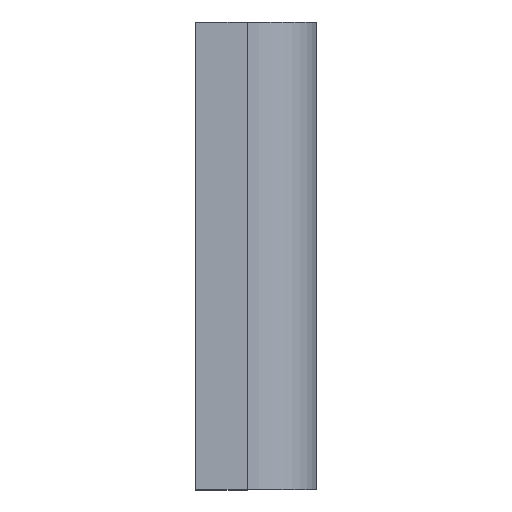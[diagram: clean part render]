
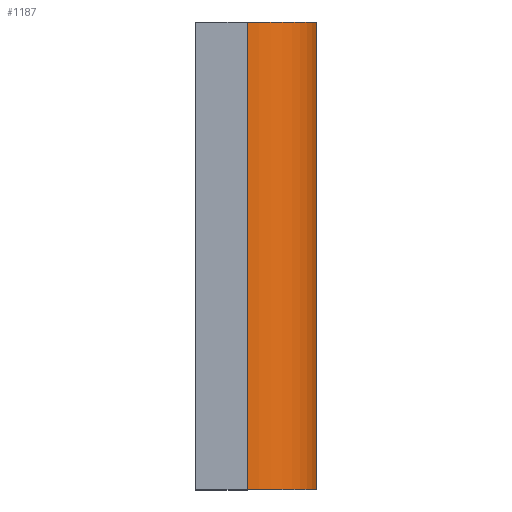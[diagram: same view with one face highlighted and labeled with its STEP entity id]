
A CAD part, top view. The second image highlights one B-rep face of the part: STEP entity #1187.
In plain terms, the highlighted cylindrical face has radius 4 mm (diameter 8 mm), a partial arc.
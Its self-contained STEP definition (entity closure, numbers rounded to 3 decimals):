
#43 = PLANE('',#44);
#44 = AXIS2_PLACEMENT_3D('',#45,#46,#47);
#45 = CARTESIAN_POINT('',(36.,-45.639,-13.5));
#46 = DIRECTION('',(0.,1.,0.));
#47 = DIRECTION('',(0.,0.,1.));
#97 = PLANE('',#98);
#98 = AXIS2_PLACEMENT_3D('',#99,#100,#101);
#99 = CARTESIAN_POINT('',(36.,-18.639,-13.5));
#100 = DIRECTION('',(0.,1.,0.));
#101 = DIRECTION('',(0.,0.,1.));
#332 = VERTEX_POINT('',#333);
#333 = CARTESIAN_POINT('',(39.,-45.639,12.5));
#346 = PLANE('',#347);
#347 = AXIS2_PLACEMENT_3D('',#348,#349,#350);
#348 = CARTESIAN_POINT('',(-43.,-67.,12.5));
#349 = DIRECTION('',(0.,0.,1.));
#350 = DIRECTION('',(1.,0.,0.));
#357 = EDGE_CURVE('',#358,#332,#360,.T.);
#358 = VERTEX_POINT('',#359);
#359 = CARTESIAN_POINT('',(43.,-45.639,8.5));
#360 = SURFACE_CURVE('',#361,(#366,#377),.PCURVE_S1.);
#361 = CIRCLE('',#362,4.);
#362 = AXIS2_PLACEMENT_3D('',#363,#364,#365);
#363 = CARTESIAN_POINT('',(39.,-45.639,8.5));
#364 = DIRECTION('',(0.,-1.,-0.));
#365 = DIRECTION('',(1.,0.,-0.));
#366 = PCURVE('',#43,#367);
#367 = DEFINITIONAL_REPRESENTATION('',(#368),#376);
#368 = ( BOUNDED_CURVE() B_SPLINE_CURVE(2,(#369,#370,#371,#372,#373,#374
,#375),.UNSPECIFIED.,.T.,.F.) B_SPLINE_CURVE_WITH_KNOTS((1,2,2,2,2,1),(
    -2.094,0.,2.094,4.189,6.283,
8.378),.UNSPECIFIED.) CURVE() GEOMETRIC_REPRESENTATION_ITEM() 
RATIONAL_B_SPLINE_CURVE((1.,0.5,1.,0.5,1.,0.5,1.)) REPRESENTATION_ITEM(
  '') );
#369 = CARTESIAN_POINT('',(22.,7.));
#370 = CARTESIAN_POINT('',(28.928,7.));
#371 = CARTESIAN_POINT('',(25.464,1.));
#372 = CARTESIAN_POINT('',(22.,-5.));
#373 = CARTESIAN_POINT('',(18.536,1.));
#374 = CARTESIAN_POINT('',(15.072,7.));
#375 = CARTESIAN_POINT('',(22.,7.));
#376 = ( GEOMETRIC_REPRESENTATION_CONTEXT(2) 
PARAMETRIC_REPRESENTATION_CONTEXT() REPRESENTATION_CONTEXT('2D SPACE',''
  ) );
#377 = PCURVE('',#378,#383);
#378 = CYLINDRICAL_SURFACE('',#379,4.);
#379 = AXIS2_PLACEMENT_3D('',#380,#381,#382);
#380 = CARTESIAN_POINT('',(39.,49.,8.5));
#381 = DIRECTION('',(-0.,-1.,-0.));
#382 = DIRECTION('',(1.,0.,-0.));
#383 = DEFINITIONAL_REPRESENTATION('',(#384),#388);
#384 = LINE('',#385,#386);
#385 = CARTESIAN_POINT('',(0.,94.639));
#386 = VECTOR('',#387,1.);
#387 = DIRECTION('',(1.,0.));
#388 = ( GEOMETRIC_REPRESENTATION_CONTEXT(2) 
PARAMETRIC_REPRESENTATION_CONTEXT() REPRESENTATION_CONTEXT('2D SPACE',''
  ) );
#405 = PLANE('',#406);
#406 = AXIS2_PLACEMENT_3D('',#407,#408,#409);
#407 = CARTESIAN_POINT('',(43.,-67.,-12.5));
#408 = DIRECTION('',(1.,0.,0.));
#409 = DIRECTION('',(0.,0.,1.));
#637 = VERTEX_POINT('',#638);
#638 = CARTESIAN_POINT('',(39.,-18.639,12.5));
#657 = EDGE_CURVE('',#658,#637,#660,.T.);
#658 = VERTEX_POINT('',#659);
#659 = CARTESIAN_POINT('',(43.,-18.639,8.5));
#660 = SURFACE_CURVE('',#661,(#666,#677),.PCURVE_S1.);
#661 = CIRCLE('',#662,4.);
#662 = AXIS2_PLACEMENT_3D('',#663,#664,#665);
#663 = CARTESIAN_POINT('',(39.,-18.639,8.5));
#664 = DIRECTION('',(0.,-1.,-0.));
#665 = DIRECTION('',(1.,0.,-0.));
#666 = PCURVE('',#97,#667);
#667 = DEFINITIONAL_REPRESENTATION('',(#668),#676);
#668 = ( BOUNDED_CURVE() B_SPLINE_CURVE(2,(#669,#670,#671,#672,#673,#674
,#675),.UNSPECIFIED.,.T.,.F.) B_SPLINE_CURVE_WITH_KNOTS((1,2,2,2,2,1),(
    -2.094,0.,2.094,4.189,6.283,
8.378),.UNSPECIFIED.) CURVE() GEOMETRIC_REPRESENTATION_ITEM() 
RATIONAL_B_SPLINE_CURVE((1.,0.5,1.,0.5,1.,0.5,1.)) REPRESENTATION_ITEM(
  '') );
#669 = CARTESIAN_POINT('',(22.,7.));
#670 = CARTESIAN_POINT('',(28.928,7.));
#671 = CARTESIAN_POINT('',(25.464,1.));
#672 = CARTESIAN_POINT('',(22.,-5.));
#673 = CARTESIAN_POINT('',(18.536,1.));
#674 = CARTESIAN_POINT('',(15.072,7.));
#675 = CARTESIAN_POINT('',(22.,7.));
#676 = ( GEOMETRIC_REPRESENTATION_CONTEXT(2) 
PARAMETRIC_REPRESENTATION_CONTEXT() REPRESENTATION_CONTEXT('2D SPACE',''
  ) );
#677 = PCURVE('',#378,#678);
#678 = DEFINITIONAL_REPRESENTATION('',(#679),#683);
#679 = LINE('',#680,#681);
#680 = CARTESIAN_POINT('',(0.,67.639));
#681 = VECTOR('',#682,1.);
#682 = DIRECTION('',(1.,0.));
#683 = ( GEOMETRIC_REPRESENTATION_CONTEXT(2) 
PARAMETRIC_REPRESENTATION_CONTEXT() REPRESENTATION_CONTEXT('2D SPACE',''
  ) );
#1167 = EDGE_CURVE('',#658,#358,#1168,.T.);
#1168 = SURFACE_CURVE('',#1169,(#1173,#1180),.PCURVE_S1.);
#1169 = LINE('',#1170,#1171);
#1170 = CARTESIAN_POINT('',(43.,49.,8.5));
#1171 = VECTOR('',#1172,1.);
#1172 = DIRECTION('',(-0.,-1.,-0.));
#1173 = PCURVE('',#405,#1174);
#1174 = DEFINITIONAL_REPRESENTATION('',(#1175),#1179);
#1175 = LINE('',#1176,#1177);
#1176 = CARTESIAN_POINT('',(21.,-116.));
#1177 = VECTOR('',#1178,1.);
#1178 = DIRECTION('',(-0.,1.));
#1179 = ( GEOMETRIC_REPRESENTATION_CONTEXT(2) 
PARAMETRIC_REPRESENTATION_CONTEXT() REPRESENTATION_CONTEXT('2D SPACE',''
  ) );
#1180 = PCURVE('',#378,#1181);
#1181 = DEFINITIONAL_REPRESENTATION('',(#1182),#1186);
#1182 = LINE('',#1183,#1184);
#1183 = CARTESIAN_POINT('',(0.,0.));
#1184 = VECTOR('',#1185,1.);
#1185 = DIRECTION('',(0.,1.));
#1186 = ( GEOMETRIC_REPRESENTATION_CONTEXT(2) 
PARAMETRIC_REPRESENTATION_CONTEXT() REPRESENTATION_CONTEXT('2D SPACE',''
  ) );
#1187 = ADVANCED_FACE('',(#1188),#378,.T.);
#1188 = FACE_BOUND('',#1189,.T.);
#1189 = EDGE_LOOP('',(#1190,#1191,#1192,#1213));
#1190 = ORIENTED_EDGE('',*,*,#1167,.F.);
#1191 = ORIENTED_EDGE('',*,*,#657,.T.);
#1192 = ORIENTED_EDGE('',*,*,#1193,.T.);
#1193 = EDGE_CURVE('',#637,#332,#1194,.T.);
#1194 = SURFACE_CURVE('',#1195,(#1199,#1206),.PCURVE_S1.);
#1195 = LINE('',#1196,#1197);
#1196 = CARTESIAN_POINT('',(39.,49.,12.5));
#1197 = VECTOR('',#1198,1.);
#1198 = DIRECTION('',(-0.,-1.,-0.));
#1199 = PCURVE('',#378,#1200);
#1200 = DEFINITIONAL_REPRESENTATION('',(#1201),#1205);
#1201 = LINE('',#1202,#1203);
#1202 = CARTESIAN_POINT('',(1.571,0.));
#1203 = VECTOR('',#1204,1.);
#1204 = DIRECTION('',(0.,1.));
#1205 = ( GEOMETRIC_REPRESENTATION_CONTEXT(2) 
PARAMETRIC_REPRESENTATION_CONTEXT() REPRESENTATION_CONTEXT('2D SPACE',''
  ) );
#1206 = PCURVE('',#346,#1207);
#1207 = DEFINITIONAL_REPRESENTATION('',(#1208),#1212);
#1208 = LINE('',#1209,#1210);
#1209 = CARTESIAN_POINT('',(82.,116.));
#1210 = VECTOR('',#1211,1.);
#1211 = DIRECTION('',(-0.,-1.));
#1212 = ( GEOMETRIC_REPRESENTATION_CONTEXT(2) 
PARAMETRIC_REPRESENTATION_CONTEXT() REPRESENTATION_CONTEXT('2D SPACE',''
  ) );
#1213 = ORIENTED_EDGE('',*,*,#357,.F.);
